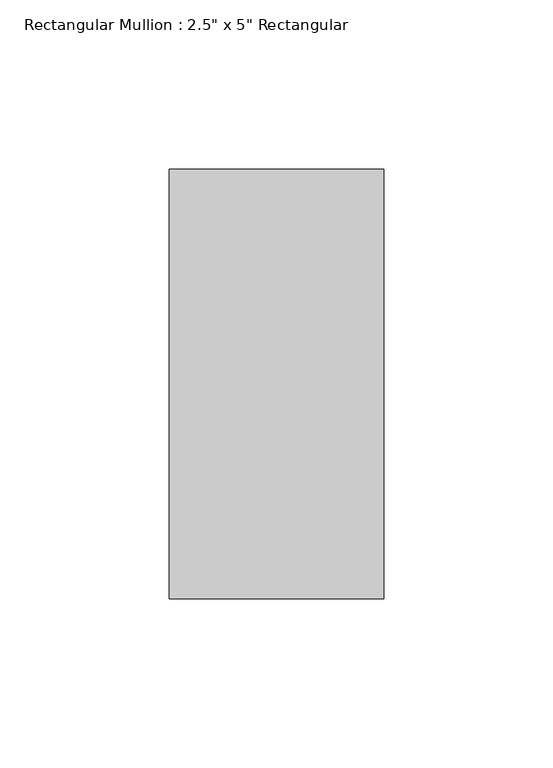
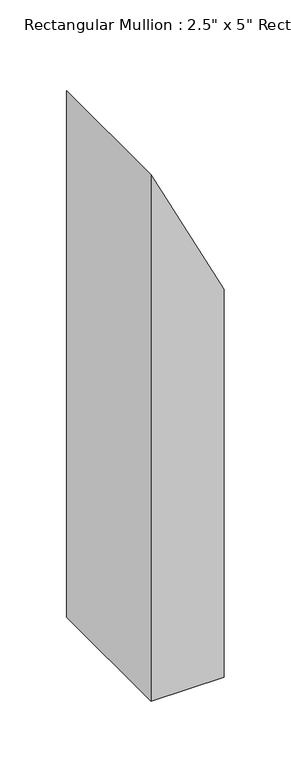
"""IFC4 building model written with IfcOpenShell, lengths in millimetres: member geometry."""

from ifc_helpers import new_model, si_unit, frame, origin, place, context, project, spatial, polyline, outline, extrude, source, transform, mapped, element, save


def member_3c804400(model_context):
    return source(origin(), model_context, "Body", "SweptSolid", [
        extrude(outline(polyline([(-205.4903166, 31.75), (-78.4903166, -31.75), (-560.9824023, -31.75), (-560.9824023, 31.75), (-205.4903166, 31.75)])), frame((0.0, -63.5, 0.0), z_axis=(0.0, 1.0, 0.0), x_axis=(0.0, 0.0, 1.0)), (0.0, 0.0, 1.0), 127.0),
    ])


if __name__ == "__main__":
    model = new_model("IFC4")
    model_context = context("Model", 3, world=origin())
    ifc_project = project(units=[si_unit("LENGTHUNIT", "METRE", prefix="MILLI")], contexts=[model_context])
    site = spatial("IfcSite", under=ifc_project)
    building = spatial("IfcBuilding", under=site)
    placement = place(None, origin())
    member_shape = member_3c804400(model_context)
    element("IfcMember", 1, ObjectType="Rectangular Mullion : 2.5\" x 5\" Rectangular", at=placement, inside=building, context=model_context, shape_type="MappedRepresentation", body=[
        mapped(member_shape, transform((0.0, 0.0, 0.0), x_axis=(1.0, 0.0, 0.0), y_axis=(0.0, 1.0, 0.0), z_axis=(0.0, 0.0, 1.0))),
    ])
    save(model, "model.ifc")
